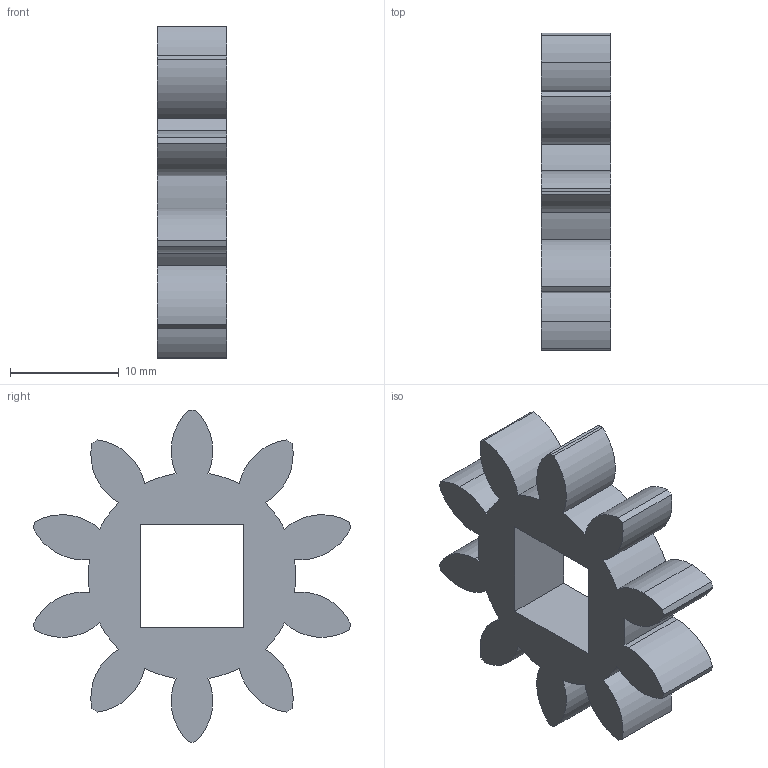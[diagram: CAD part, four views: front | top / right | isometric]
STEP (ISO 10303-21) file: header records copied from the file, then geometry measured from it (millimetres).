
FILE_DESCRIPTION (( 'STEP AP214' ), '1' );
FILE_NAME ('8 - Driving Gear 10T.STEP', '2022-11-25T05:45:51', ( '' ), ( '' ), 'SwSTEP 2.0', 'SolidWorks 2021', '' );
FILE_SCHEMA (( 'AUTOMOTIVE_DESIGN' ));
Length unit declared in the file: inch
Products named in the file (1): 8 - Driving Gear 10T
Bounding box: 6.35 x 29.16 x 30.48 mm (x, y, z)
Volume: 2363.3 mm3; surface area: 2022.6 mm2
Topology: 1 solids, 1 shells, 51 faces, 147 edges, 98 vertices
Faces by surface type: cylinder 45, plane 6
Entity records: 1775 total; most frequent: DIRECTION 341, CARTESIAN_POINT 297, ORIENTED_EDGE 294, EDGE_CURVE 147, AXIS2_PLACEMENT_3D 142, VERTEX_POINT 98, CIRCLE 90, VECTOR 57
